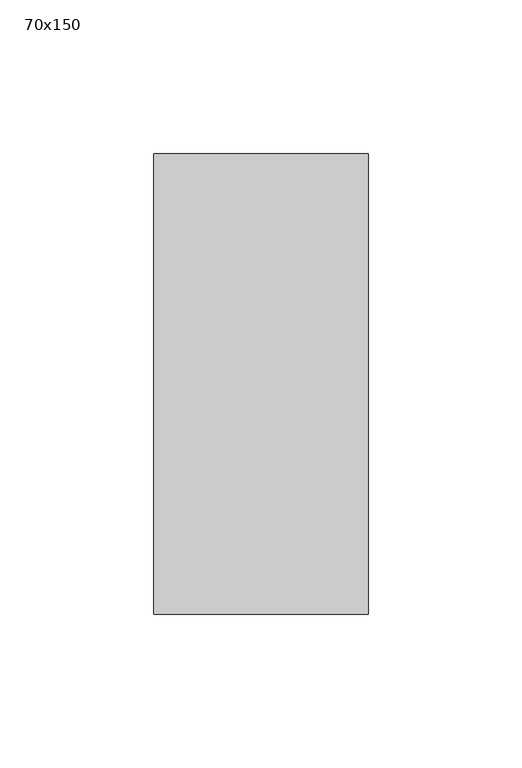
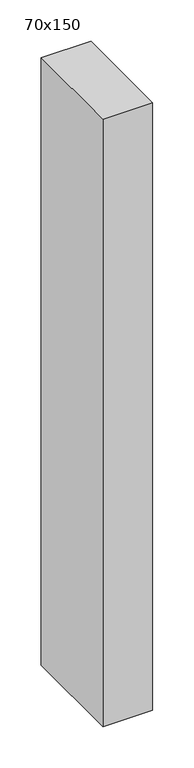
"""IFC4 building model written with IfcOpenShell, lengths in millimetres: member geometry, 長方形のマリオン : 70x150."""

from ifc_helpers import new_model, si_unit, frame, origin, place, context, project, spatial, polyline, outline, extrude, source, transform, mapped, element, save


def member_70x150_d0359e29(model_context):
    return source(origin(), model_context, "Body", "SweptSolid", [
        extrude(outline(polyline([(35.0, 75.0), (35.0, -75.0), (-35.0, -75.0), (-35.0, 75.0), (35.0, 75.0)])), frame((0.0, 0.0, -900.0), z_axis=(0.0, 0.0, 1.0), x_axis=(1.0, 0.0, 0.0)), (0.0, 0.0, 1.0), 900.0),
    ])


if __name__ == "__main__":
    model = new_model("IFC4")
    model_context = context("Model", 3, world=origin())
    ifc_project = project(units=[si_unit("LENGTHUNIT", "METRE", prefix="MILLI")], contexts=[model_context])
    site = spatial("IfcSite", under=ifc_project)
    building = spatial("IfcBuilding", under=site)
    placement = place(None, origin())
    member_70x150_shape = member_70x150_d0359e29(model_context)
    element("IfcMember", 1, ObjectType="長方形のマリオン : 70x150", at=placement, inside=building, context=model_context, shape_type="MappedRepresentation", body=[
        mapped(member_70x150_shape, transform((0.0, 0.0, 0.0), x_axis=(1.0, 0.0, 0.0), y_axis=(0.0, 1.0, 0.0), z_axis=(0.0, 0.0, 1.0))),
    ])
    save(model, "model.ifc")
